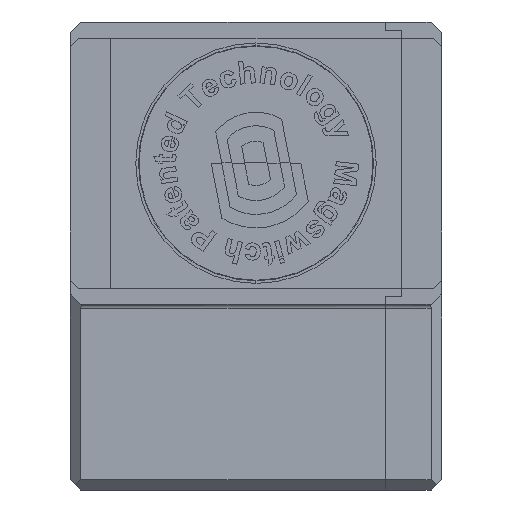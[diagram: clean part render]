
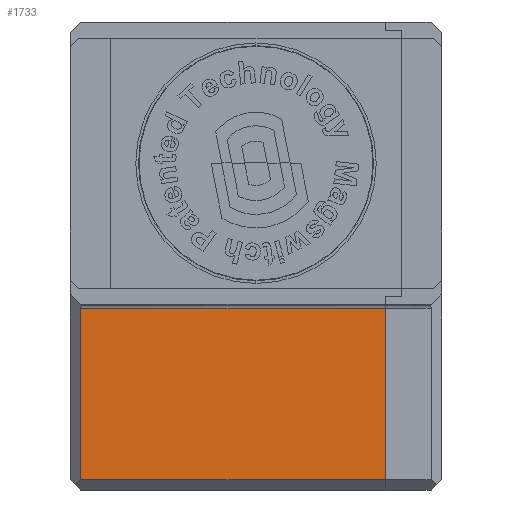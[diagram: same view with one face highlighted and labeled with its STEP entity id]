
A CAD part, front view. The second image highlights one B-rep face of the part: STEP entity #1733.
In plain terms, the highlighted planar face has unit normal (0, -1, 0).
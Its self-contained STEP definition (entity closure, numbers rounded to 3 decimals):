
#1733 = ADVANCED_FACE ( 'NONE', ( #75536 ), #89312, .T. ) ;
#5003 = DIRECTION ( 'NONE',  ( 0., 0., 1. ) ) ;
#7123 = ORIENTED_EDGE ( 'NONE', *, *, #126293, .T. ) ;
#13253 = EDGE_LOOP ( 'NONE', ( #49723, #75114, #7123, #97369 ) ) ;
#16519 = VERTEX_POINT ( 'NONE', #65289 ) ;
#18300 = DIRECTION ( 'NONE',  ( 0., 0., -1. ) ) ;
#28819 = VERTEX_POINT ( 'NONE', #115756 ) ;
#32309 = EDGE_CURVE ( 'NONE', #28819, #72154, #42827, .T. ) ;
#35273 = CARTESIAN_POINT ( 'NONE',  ( 16., 38.5, -39.2 ) ) ;
#39090 = CARTESIAN_POINT ( 'NONE',  ( 0., 38.5, -18. ) ) ;
#42827 = LINE ( 'NONE', #105392, #110681 ) ;
#45431 = LINE ( 'NONE', #95502, #122780 ) ;
#49723 = ORIENTED_EDGE ( 'NONE', *, *, #84082, .T. ) ;
#57954 = LINE ( 'NONE', #39090, #92831 ) ;
#59345 = VERTEX_POINT ( 'NONE', #105924 ) ;
#65289 = CARTESIAN_POINT ( 'NONE',  ( -21.7, 38.5, -18. ) ) ;
#68577 = CARTESIAN_POINT ( 'NONE',  ( 0., 38.5, -11.5 ) ) ;
#72154 = VERTEX_POINT ( 'NONE', #35273 ) ;
#75114 = ORIENTED_EDGE ( 'NONE', *, *, #117934, .T. ) ;
#75536 = FACE_OUTER_BOUND ( 'NONE', #13253, .T. ) ;
#78740 = DIRECTION ( 'NONE',  ( 0., -1., 0. ) ) ;
#80765 = VECTOR ( 'NONE', #112570, 1000. ) ;
#84082 = EDGE_CURVE ( 'NONE', #72154, #59345, #45431, .T. ) ;
#89312 = PLANE ( 'NONE',  #101594 ) ;
#92831 = VECTOR ( 'NONE', #109694, 1000. ) ;
#95502 = CARTESIAN_POINT ( 'NONE',  ( 16., 38.5, -11.5 ) ) ;
#95591 = CARTESIAN_POINT ( 'NONE',  ( -21.7, 38.5, -40.5 ) ) ;
#97369 = ORIENTED_EDGE ( 'NONE', *, *, #32309, .T. ) ;
#101594 = AXIS2_PLACEMENT_3D ( 'NONE', #68577, #78740, #18300 ) ;
#105392 = CARTESIAN_POINT ( 'NONE',  ( 16., 38.5, -39.2 ) ) ;
#105924 = CARTESIAN_POINT ( 'NONE',  ( 16., 38.5, -18. ) ) ;
#109694 = DIRECTION ( 'NONE',  ( -1., 0., 0. ) ) ;
#110681 = VECTOR ( 'NONE', #123910, 1000. ) ;
#112570 = DIRECTION ( 'NONE',  ( 0., 0., -1. ) ) ;
#115293 = LINE ( 'NONE', #95591, #80765 ) ;
#115756 = CARTESIAN_POINT ( 'NONE',  ( -21.7, 38.5, -39.2 ) ) ;
#117934 = EDGE_CURVE ( 'NONE', #59345, #16519, #57954, .T. ) ;
#122780 = VECTOR ( 'NONE', #5003, 1000. ) ;
#123910 = DIRECTION ( 'NONE',  ( 1., 0., 0. ) ) ;
#126293 = EDGE_CURVE ( 'NONE', #16519, #28819, #115293, .T. ) ;
